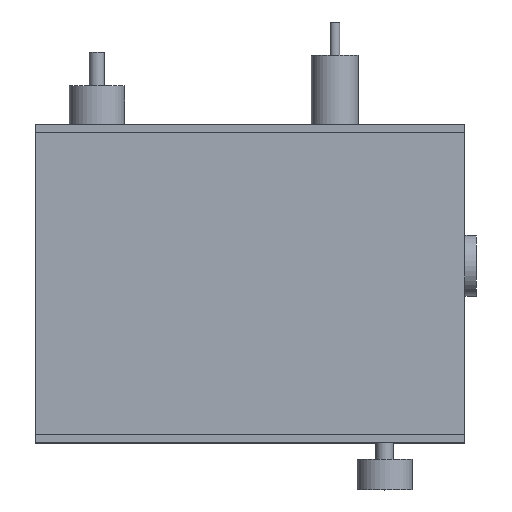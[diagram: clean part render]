
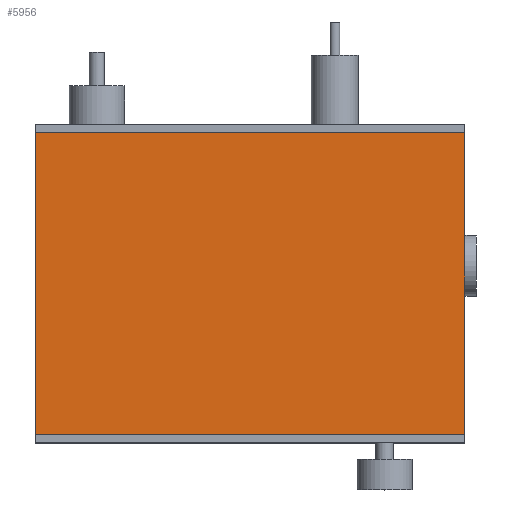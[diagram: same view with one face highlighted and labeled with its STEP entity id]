
A CAD part, top view. The second image highlights one B-rep face of the part: STEP entity #5956.
In plain terms, the highlighted planar face has unit normal (0, 0, 1).
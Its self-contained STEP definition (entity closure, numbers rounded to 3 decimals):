
#5449 = VERTEX_POINT('',#5450);
#5450 = CARTESIAN_POINT('',(0.,3.,100.));
#5457 = PLANE('',#5458);
#5458 = AXIS2_PLACEMENT_3D('',#5459,#5460,#5461);
#5459 = CARTESIAN_POINT('',(0.,3.,0.));
#5460 = DIRECTION('',(1.,0.,0.));
#5461 = DIRECTION('',(0.,0.,1.));
#5469 = PLANE('',#5470);
#5470 = AXIS2_PLACEMENT_3D('',#5471,#5472,#5473);
#5471 = CARTESIAN_POINT('',(0.,3.,0.));
#5472 = DIRECTION('',(0.,1.,0.));
#5473 = DIRECTION('',(0.,0.,1.));
#5510 = VERTEX_POINT('',#5511);
#5511 = CARTESIAN_POINT('',(0.,112.,100.));
#5525 = PLANE('',#5526);
#5526 = AXIS2_PLACEMENT_3D('',#5527,#5528,#5529);
#5527 = CARTESIAN_POINT('',(0.,112.,0.));
#5528 = DIRECTION('',(0.,1.,0.));
#5529 = DIRECTION('',(0.,0.,1.));
#5537 = EDGE_CURVE('',#5449,#5510,#5538,.T.);
#5538 = SURFACE_CURVE('',#5539,(#5543,#5550),.PCURVE_S1.);
#5539 = LINE('',#5540,#5541);
#5540 = CARTESIAN_POINT('',(0.,3.,100.));
#5541 = VECTOR('',#5542,1.);
#5542 = DIRECTION('',(0.,1.,0.));
#5543 = PCURVE('',#5457,#5544);
#5544 = DEFINITIONAL_REPRESENTATION('',(#5545),#5549);
#5545 = LINE('',#5546,#5547);
#5546 = CARTESIAN_POINT('',(100.,0.));
#5547 = VECTOR('',#5548,1.);
#5548 = DIRECTION('',(0.,-1.));
#5549 = ( GEOMETRIC_REPRESENTATION_CONTEXT(2) 
PARAMETRIC_REPRESENTATION_CONTEXT() REPRESENTATION_CONTEXT('2D SPACE',''
  ) );
#5550 = PCURVE('',#5551,#5556);
#5551 = PLANE('',#5552);
#5552 = AXIS2_PLACEMENT_3D('',#5553,#5554,#5555);
#5553 = CARTESIAN_POINT('',(0.,3.,100.));
#5554 = DIRECTION('',(0.,0.,1.));
#5555 = DIRECTION('',(1.,0.,0.));
#5556 = DEFINITIONAL_REPRESENTATION('',(#5557),#5561);
#5557 = LINE('',#5558,#5559);
#5558 = CARTESIAN_POINT('',(0.,0.));
#5559 = VECTOR('',#5560,1.);
#5560 = DIRECTION('',(0.,1.));
#5561 = ( GEOMETRIC_REPRESENTATION_CONTEXT(2) 
PARAMETRIC_REPRESENTATION_CONTEXT() REPRESENTATION_CONTEXT('2D SPACE',''
  ) );
#5802 = EDGE_CURVE('',#5449,#5803,#5805,.T.);
#5803 = VERTEX_POINT('',#5804);
#5804 = CARTESIAN_POINT('',(155.,3.,100.));
#5805 = SURFACE_CURVE('',#5806,(#5810,#5817),.PCURVE_S1.);
#5806 = LINE('',#5807,#5808);
#5807 = CARTESIAN_POINT('',(0.,3.,100.));
#5808 = VECTOR('',#5809,1.);
#5809 = DIRECTION('',(1.,0.,0.));
#5810 = PCURVE('',#5469,#5811);
#5811 = DEFINITIONAL_REPRESENTATION('',(#5812),#5816);
#5812 = LINE('',#5813,#5814);
#5813 = CARTESIAN_POINT('',(100.,0.));
#5814 = VECTOR('',#5815,1.);
#5815 = DIRECTION('',(0.,1.));
#5816 = ( GEOMETRIC_REPRESENTATION_CONTEXT(2) 
PARAMETRIC_REPRESENTATION_CONTEXT() REPRESENTATION_CONTEXT('2D SPACE',''
  ) );
#5817 = PCURVE('',#5551,#5818);
#5818 = DEFINITIONAL_REPRESENTATION('',(#5819),#5823);
#5819 = LINE('',#5820,#5821);
#5820 = CARTESIAN_POINT('',(0.,0.));
#5821 = VECTOR('',#5822,1.);
#5822 = DIRECTION('',(1.,0.));
#5823 = ( GEOMETRIC_REPRESENTATION_CONTEXT(2) 
PARAMETRIC_REPRESENTATION_CONTEXT() REPRESENTATION_CONTEXT('2D SPACE',''
  ) );
#5839 = PLANE('',#5840);
#5840 = AXIS2_PLACEMENT_3D('',#5841,#5842,#5843);
#5841 = CARTESIAN_POINT('',(155.,3.,0.));
#5842 = DIRECTION('',(1.,0.,0.));
#5843 = DIRECTION('',(0.,0.,1.));
#5956 = ADVANCED_FACE('',(#5957),#5551,.T.);
#5957 = FACE_BOUND('',#5958,.T.);
#5958 = EDGE_LOOP('',(#5959,#5960,#5961,#5984));
#5959 = ORIENTED_EDGE('',*,*,#5537,.F.);
#5960 = ORIENTED_EDGE('',*,*,#5802,.T.);
#5961 = ORIENTED_EDGE('',*,*,#5962,.T.);
#5962 = EDGE_CURVE('',#5803,#5963,#5965,.T.);
#5963 = VERTEX_POINT('',#5964);
#5964 = CARTESIAN_POINT('',(155.,112.,100.));
#5965 = SURFACE_CURVE('',#5966,(#5970,#5977),.PCURVE_S1.);
#5966 = LINE('',#5967,#5968);
#5967 = CARTESIAN_POINT('',(155.,3.,100.));
#5968 = VECTOR('',#5969,1.);
#5969 = DIRECTION('',(0.,1.,0.));
#5970 = PCURVE('',#5551,#5971);
#5971 = DEFINITIONAL_REPRESENTATION('',(#5972),#5976);
#5972 = LINE('',#5973,#5974);
#5973 = CARTESIAN_POINT('',(155.,0.));
#5974 = VECTOR('',#5975,1.);
#5975 = DIRECTION('',(0.,1.));
#5976 = ( GEOMETRIC_REPRESENTATION_CONTEXT(2) 
PARAMETRIC_REPRESENTATION_CONTEXT() REPRESENTATION_CONTEXT('2D SPACE',''
  ) );
#5977 = PCURVE('',#5839,#5978);
#5978 = DEFINITIONAL_REPRESENTATION('',(#5979),#5983);
#5979 = LINE('',#5980,#5981);
#5980 = CARTESIAN_POINT('',(100.,0.));
#5981 = VECTOR('',#5982,1.);
#5982 = DIRECTION('',(0.,-1.));
#5983 = ( GEOMETRIC_REPRESENTATION_CONTEXT(2) 
PARAMETRIC_REPRESENTATION_CONTEXT() REPRESENTATION_CONTEXT('2D SPACE',''
  ) );
#5984 = ORIENTED_EDGE('',*,*,#5985,.F.);
#5985 = EDGE_CURVE('',#5510,#5963,#5986,.T.);
#5986 = SURFACE_CURVE('',#5987,(#5991,#5998),.PCURVE_S1.);
#5987 = LINE('',#5988,#5989);
#5988 = CARTESIAN_POINT('',(0.,112.,100.));
#5989 = VECTOR('',#5990,1.);
#5990 = DIRECTION('',(1.,0.,0.));
#5991 = PCURVE('',#5551,#5992);
#5992 = DEFINITIONAL_REPRESENTATION('',(#5993),#5997);
#5993 = LINE('',#5994,#5995);
#5994 = CARTESIAN_POINT('',(0.,109.));
#5995 = VECTOR('',#5996,1.);
#5996 = DIRECTION('',(1.,0.));
#5997 = ( GEOMETRIC_REPRESENTATION_CONTEXT(2) 
PARAMETRIC_REPRESENTATION_CONTEXT() REPRESENTATION_CONTEXT('2D SPACE',''
  ) );
#5998 = PCURVE('',#5525,#5999);
#5999 = DEFINITIONAL_REPRESENTATION('',(#6000),#6004);
#6000 = LINE('',#6001,#6002);
#6001 = CARTESIAN_POINT('',(100.,0.));
#6002 = VECTOR('',#6003,1.);
#6003 = DIRECTION('',(0.,1.));
#6004 = ( GEOMETRIC_REPRESENTATION_CONTEXT(2) 
PARAMETRIC_REPRESENTATION_CONTEXT() REPRESENTATION_CONTEXT('2D SPACE',''
  ) );
